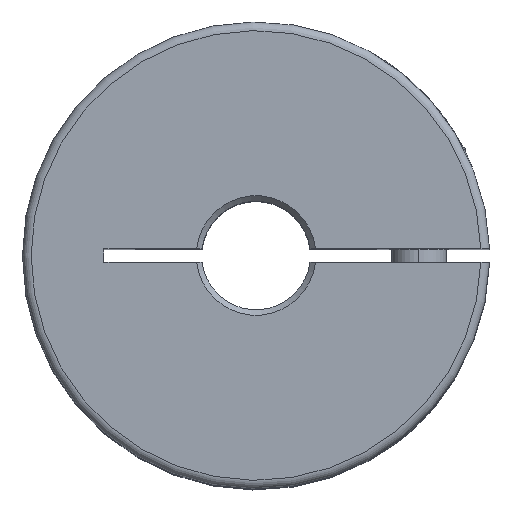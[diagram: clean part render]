
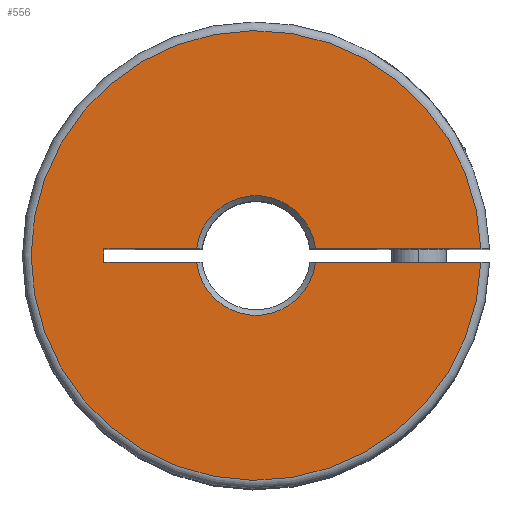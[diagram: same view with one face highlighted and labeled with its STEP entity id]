
A CAD part, top view. The second image highlights one B-rep face of the part: STEP entity #556.
In plain terms, the highlighted planar face has unit normal (0, 0, 1).
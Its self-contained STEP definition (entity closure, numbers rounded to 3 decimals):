
#73 = VERTEX_POINT ( 'NONE', #1478 ) ;
#74 = VERTEX_POINT ( 'NONE', #1479 ) ;
#85 = VERTEX_POINT ( 'NONE', #1488 ) ;
#88 = VERTEX_POINT ( 'NONE', #1491 ) ;
#133 = EDGE_CURVE ( 'NONE', #5359, #85, #1606, .T. ) ;
#146 = EDGE_CURVE ( 'NONE', #5359, #5357, #618, .T. ) ;
#251 = EDGE_CURVE ( 'NONE', #88, #85, #580, .T. ) ;
#274 = EDGE_CURVE ( 'NONE', #73, #88, #3346, .T. ) ;
#344 = EDGE_CURVE ( 'NONE', #5326, #73, #830, .T. ) ;
#392 = EDGE_CURVE ( 'NONE', #74, #5357, #3858, .T. ) ;
#393 = EDGE_CURVE ( 'NONE', #74, #5890, #3861, .T. ) ;
#442 = EDGE_CURVE ( 'NONE', #5890, #5326, #4118, .T. ) ;
#556 = ADVANCED_FACE ( 'NONE', ( #4830 ), #2256, .T. ) ;
#580 = CIRCLE ( 'NONE', #4415, 20.7 ) ;
#618 = CIRCLE ( 'NONE', #5106, 5.5 ) ;
#830 = CIRCLE ( 'NONE', #4549, 5.5 ) ;
#1359 = EDGE_LOOP ( 'NONE', ( #5625, #5714, #5514, #5647, #5585, #5862, #5689, #5739 ) ) ;
#1478 = CARTESIAN_POINT ( 'NONE',  ( 5.467, 0.6, 26. ) ) ;
#1479 = CARTESIAN_POINT ( 'NONE',  ( -14., -0.6, 26. ) ) ;
#1488 = CARTESIAN_POINT ( 'NONE',  ( 20.691, -0.6, 26. ) ) ;
#1491 = CARTESIAN_POINT ( 'NONE',  ( 20.691, 0.6, 26. ) ) ;
#1606 = LINE ( 'NONE', #1607, #5129 ) ;
#1607 = CARTESIAN_POINT ( 'NONE',  ( -14., -0.6, 26. ) ) ;
#1608 = DIRECTION ( 'NONE',  ( 1., 0., 0. ) ) ;
#1681 = CARTESIAN_POINT ( 'NONE',  ( 0., 0., 26. ) ) ;
#1682 = DIRECTION ( 'NONE',  ( 0., 0., -1. ) ) ;
#1683 = DIRECTION ( 'NONE',  ( 1., 0., 0. ) ) ;
#2256 = PLANE ( 'NONE',  #4832 ) ;
#2257 = CARTESIAN_POINT ( 'NONE',  ( 0., 0., 26. ) ) ;
#2258 = DIRECTION ( 'NONE',  ( 0., 0., 1. ) ) ;
#2259 = DIRECTION ( 'NONE',  ( 1., 0., 0. ) ) ;
#2870 = CARTESIAN_POINT ( 'NONE',  ( -5.467, 0.6, 26. ) ) ;
#2901 = CARTESIAN_POINT ( 'NONE',  ( -5.467, -0.6, 26. ) ) ;
#2903 = CARTESIAN_POINT ( 'NONE',  ( 5.467, -0.6, 26. ) ) ;
#3006 = CARTESIAN_POINT ( 'NONE',  ( -14., 0.6, 26. ) ) ;
#3264 = CARTESIAN_POINT ( 'NONE',  ( 0., 0., 26. ) ) ;
#3277 = DIRECTION ( 'NONE',  ( 0., 0., 1. ) ) ;
#3278 = DIRECTION ( 'NONE',  ( 1., 0., 0. ) ) ;
#3346 = LINE ( 'NONE', #3347, #4439 ) ;
#3347 = CARTESIAN_POINT ( 'NONE',  ( -14., 0.6, 26. ) ) ;
#3348 = DIRECTION ( 'NONE',  ( 1., 0., 0. ) ) ;
#3697 = CARTESIAN_POINT ( 'NONE',  ( 0., 0., 26. ) ) ;
#3698 = DIRECTION ( 'NONE',  ( 0., 0., -1. ) ) ;
#3699 = DIRECTION ( 'NONE',  ( 1., 0., 0. ) ) ;
#3858 = LINE ( 'NONE', #3859, #4599 ) ;
#3859 = CARTESIAN_POINT ( 'NONE',  ( -14., -0.6, 26. ) ) ;
#3860 = DIRECTION ( 'NONE',  ( 1., 0., 0. ) ) ;
#3861 = LINE ( 'NONE', #3862, #4601 ) ;
#3862 = CARTESIAN_POINT ( 'NONE',  ( -14., -0.6, 26. ) ) ;
#3863 = DIRECTION ( 'NONE',  ( 0., 1., 0. ) ) ;
#4118 = LINE ( 'NONE', #4119, #4649 ) ;
#4119 = CARTESIAN_POINT ( 'NONE',  ( -14., 0.6, 26. ) ) ;
#4120 = DIRECTION ( 'NONE',  ( 1., 0., 0. ) ) ;
#4415 = AXIS2_PLACEMENT_3D ( 'NONE', #3264, #3277, #3278 ) ;
#4439 = VECTOR ( 'NONE', #3348, 1000. ) ;
#4549 = AXIS2_PLACEMENT_3D ( 'NONE', #3697, #3698, #3699 ) ;
#4599 = VECTOR ( 'NONE', #3860, 1000. ) ;
#4601 = VECTOR ( 'NONE', #3863, 1000. ) ;
#4649 = VECTOR ( 'NONE', #4120, 1000. ) ;
#4830 = FACE_OUTER_BOUND ( 'NONE', #1359, .T. ) ;
#4832 = AXIS2_PLACEMENT_3D ( 'NONE', #2257, #2258, #2259 ) ;
#5106 = AXIS2_PLACEMENT_3D ( 'NONE', #1681, #1682, #1683 ) ;
#5129 = VECTOR ( 'NONE', #1608, 1000. ) ;
#5326 = VERTEX_POINT ( 'NONE', #2870 ) ;
#5357 = VERTEX_POINT ( 'NONE', #2901 ) ;
#5359 = VERTEX_POINT ( 'NONE', #2903 ) ;
#5514 = ORIENTED_EDGE ( 'NONE', *, *, #274, .T. ) ;
#5585 = ORIENTED_EDGE ( 'NONE', *, *, #133, .F. ) ;
#5625 = ORIENTED_EDGE ( 'NONE', *, *, #442, .T. ) ;
#5647 = ORIENTED_EDGE ( 'NONE', *, *, #251, .T. ) ;
#5689 = ORIENTED_EDGE ( 'NONE', *, *, #392, .F. ) ;
#5714 = ORIENTED_EDGE ( 'NONE', *, *, #344, .T. ) ;
#5739 = ORIENTED_EDGE ( 'NONE', *, *, #393, .T. ) ;
#5862 = ORIENTED_EDGE ( 'NONE', *, *, #146, .T. ) ;
#5890 = VERTEX_POINT ( 'NONE', #3006 ) ;
